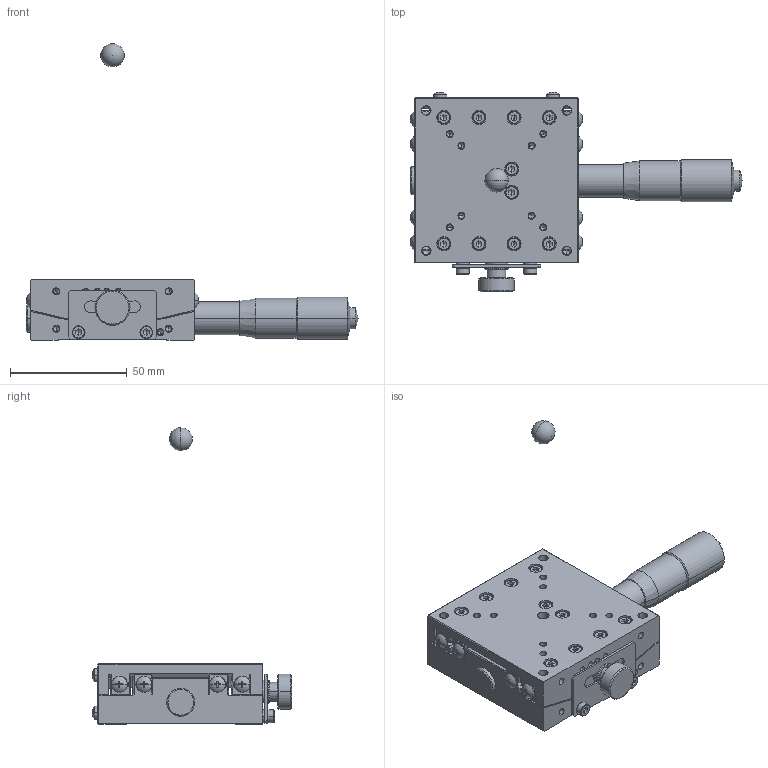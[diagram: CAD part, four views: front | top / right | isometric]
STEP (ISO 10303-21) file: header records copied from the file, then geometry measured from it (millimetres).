
FILE_DESCRIPTION (( 'STEP AP214' ), '1' );
FILE_NAME ('ST07A-C1M-R.STEP', '2007-01-19T02:22:17', ( ' ' ), ( ' ' ), 'SwSTEP 2.0', 'SolidWorks 2006052', '' );
FILE_SCHEMA (( 'AUTOMOTIVE_DESIGN' ));
Length unit declared in the file: millimetre
Products named in the file (6): MICROMETERHEAD(MHN4-25T)spindle-3; ST07A-C1M-R-Part-1; 002600-1011(3D)-1; 002600-1020(3D)-1; ST07A-C1M-R; 002590-1130(3D)-3
Assembly tree (5 placements, depth 2):
  ST07A-C1M-R
    002590-1130(3D)-3
    002600-1020(3D)-1
    ST07A-C1M-R-Part-1
    MICROMETERHEAD(MHN4-25T)spindle-3
    002600-1011(3D)-1
Bounding box: 142 x 85.39 x 127 mm (x, y, z)
Volume: 124270 mm3; surface area: 60362.4 mm2
Topology: 5 solids, 41 shells, 1827 faces, 4267 edges, 2514 vertices
Faces by surface type: plane 769, cylinder 594, cone 432, sphere 32
Entity records: 54909 total; most frequent: CARTESIAN_POINT 13027, DIRECTION 9155, ORIENTED_EDGE 8300, EDGE_CURVE 4150, AXIS2_PLACEMENT_3D 3532, VERTEX_POINT 2511, VECTOR 2091, LINE 2091
